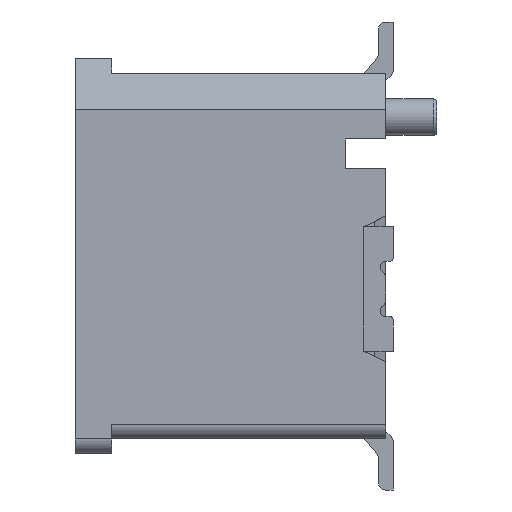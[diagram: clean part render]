
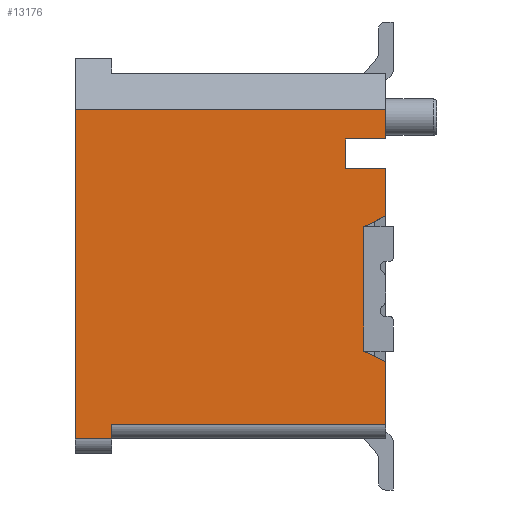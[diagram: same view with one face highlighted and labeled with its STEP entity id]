
A CAD part, left-side view. The second image highlights one B-rep face of the part: STEP entity #13176.
In plain terms, the highlighted planar face has unit normal (-1, 0, 0).
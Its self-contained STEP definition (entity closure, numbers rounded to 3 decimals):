
#37=DIRECTION('',(0.,0.,-1.));
#38=VECTOR('',#37,0.4);
#39=CARTESIAN_POINT('',(0.,0.,-0.5));
#40=LINE('',#39,#38);
#322=DIRECTION('',(0.,0.,-1.));
#323=VECTOR('',#322,4.5);
#324=CARTESIAN_POINT('',(0.,4.25,-0.5));
#325=LINE('',#324,#323);
#326=DIRECTION('',(0.,1.,0.));
#327=VECTOR('',#326,4.25);
#328=CARTESIAN_POINT('',(0.,0.,-0.5));
#329=LINE('',#328,#327);
#330=DIRECTION('',(0.,-1.,0.));
#331=VECTOR('',#330,0.55);
#332=CARTESIAN_POINT('',(0.,0.55,-0.9));
#333=LINE('',#332,#331);
#334=DIRECTION('',(0.,0.,1.));
#335=VECTOR('',#334,0.4);
#336=CARTESIAN_POINT('',(0.,0.55,-1.3));
#337=LINE('',#336,#335);
#338=DIRECTION('',(0.,1.,0.));
#339=VECTOR('',#338,0.55);
#340=CARTESIAN_POINT('',(0.,0.,-1.3));
#341=LINE('',#340,#339);
#342=DIRECTION('',(0.,-0.894,0.447));
#343=VECTOR('',#342,0.335);
#344=CARTESIAN_POINT('',(0.,0.3,-2.1));
#345=LINE('',#344,#343);
#346=DIRECTION('',(0.,0.,1.));
#347=VECTOR('',#346,1.7);
#348=CARTESIAN_POINT('',(0.,0.3,-3.8));
#349=LINE('',#348,#347);
#350=DIRECTION('',(0.,0.894,0.447));
#351=VECTOR('',#350,0.335);
#352=CARTESIAN_POINT('',(0.,0.,-3.95));
#353=LINE('',#352,#351);
#616=DIRECTION('',(0.,0.,-1.));
#617=VECTOR('',#616,0.85);
#618=CARTESIAN_POINT('',(0.,0.,-3.95));
#619=LINE('',#618,#617);
#624=DIRECTION('',(0.,0.,-1.));
#625=VECTOR('',#624,0.65);
#626=CARTESIAN_POINT('',(0.,0.,-1.3));
#627=LINE('',#626,#625);
#1149=DIRECTION('',(0.,1.,0.));
#1150=VECTOR('',#1149,0.5);
#1151=CARTESIAN_POINT('',(0.,3.75,-5.));
#1152=LINE('',#1151,#1150);
#1166=DIRECTION('',(0.,0.,-1.));
#1167=VECTOR('',#1166,0.2);
#1168=CARTESIAN_POINT('',(0.,3.75,-4.8));
#1169=LINE('',#1168,#1167);
#3533=DIRECTION('',(0.,1.,0.));
#3534=VECTOR('',#3533,3.75);
#3535=CARTESIAN_POINT('',(0.,0.,-4.8));
#3536=LINE('',#3535,#3534);
#10444=CARTESIAN_POINT('',(0.,0.,-3.95));
#10445=CARTESIAN_POINT('',(0.,0.,-4.8));
#10446=VERTEX_POINT('',#10444);
#10447=VERTEX_POINT('',#10445);
#10468=CARTESIAN_POINT('',(0.,0.3,-3.8));
#10469=CARTESIAN_POINT('',(0.,0.3,-2.1));
#10470=VERTEX_POINT('',#10468);
#10471=VERTEX_POINT('',#10469);
#11006=CARTESIAN_POINT('',(0.,0.,-0.5));
#11007=VERTEX_POINT('',#11006);
#11026=CARTESIAN_POINT('',(0.,0.,-1.3));
#11027=CARTESIAN_POINT('',(0.,0.,-1.95));
#11028=VERTEX_POINT('',#11026);
#11029=VERTEX_POINT('',#11027);
#11366=CARTESIAN_POINT('',(0.,0.,-0.9));
#11367=VERTEX_POINT('',#11366);
#12042=CARTESIAN_POINT('',(0.,0.55,-0.9));
#12043=VERTEX_POINT('',#12042);
#12044=CARTESIAN_POINT('',(0.,0.55,-1.3));
#12045=VERTEX_POINT('',#12044);
#12514=CARTESIAN_POINT('',(0.,4.25,-5.));
#12515=VERTEX_POINT('',#12514);
#12516=CARTESIAN_POINT('',(0.,4.25,-0.5));
#12517=VERTEX_POINT('',#12516);
#12538=CARTESIAN_POINT('',(0.,3.75,-4.8));
#12539=VERTEX_POINT('',#12538);
#12540=CARTESIAN_POINT('',(0.,3.75,-5.));
#12541=VERTEX_POINT('',#12540);
#13143=CARTESIAN_POINT('',(0.,4.25,0.));
#13144=DIRECTION('',(1.,0.,0.));
#13145=DIRECTION('',(0.,0.,-1.));
#13146=AXIS2_PLACEMENT_3D('',#13143,#13144,#13145);
#13147=PLANE('',#13146);
#13149=ORIENTED_EDGE('',*,*,#13148,.T.);
#13151=ORIENTED_EDGE('',*,*,#13150,.T.);
#13153=ORIENTED_EDGE('',*,*,#13152,.T.);
#13155=ORIENTED_EDGE('',*,*,#13154,.T.);
#13157=ORIENTED_EDGE('',*,*,#13156,.F.);
#13159=ORIENTED_EDGE('',*,*,#13158,.F.);
#13160=ORIENTED_EDGE('',*,*,#12944,.T.);
#13161=ORIENTED_EDGE('',*,*,#13133,.F.);
#13163=ORIENTED_EDGE('',*,*,#13162,.F.);
#13165=ORIENTED_EDGE('',*,*,#13164,.F.);
#13167=ORIENTED_EDGE('',*,*,#13166,.T.);
#13169=ORIENTED_EDGE('',*,*,#13168,.F.);
#13171=ORIENTED_EDGE('',*,*,#13170,.F.);
#13173=ORIENTED_EDGE('',*,*,#13172,.F.);
#13174=EDGE_LOOP('',(#13149,#13151,#13153,#13155,#13157,#13159,#13160,#13161,
#13163,#13165,#13167,#13169,#13171,#13173));
#13175=FACE_OUTER_BOUND('',#13174,.F.);
#13176=ADVANCED_FACE('',(#13175),#13147,.F.);
#12944=EDGE_CURVE('',#11007,#11367,#40,.T.);
#13133=EDGE_CURVE('',#12043,#11367,#333,.T.);
#13148=EDGE_CURVE('',#10446,#10447,#619,.T.);
#13150=EDGE_CURVE('',#10447,#12539,#3536,.T.);
#13152=EDGE_CURVE('',#12539,#12541,#1169,.T.);
#13154=EDGE_CURVE('',#12541,#12515,#1152,.T.);
#13156=EDGE_CURVE('',#12517,#12515,#325,.T.);
#13158=EDGE_CURVE('',#11007,#12517,#329,.T.);
#13162=EDGE_CURVE('',#12045,#12043,#337,.T.);
#13164=EDGE_CURVE('',#11028,#12045,#341,.T.);
#13166=EDGE_CURVE('',#11028,#11029,#627,.T.);
#13168=EDGE_CURVE('',#10471,#11029,#345,.T.);
#13170=EDGE_CURVE('',#10470,#10471,#349,.T.);
#13172=EDGE_CURVE('',#10446,#10470,#353,.T.);
